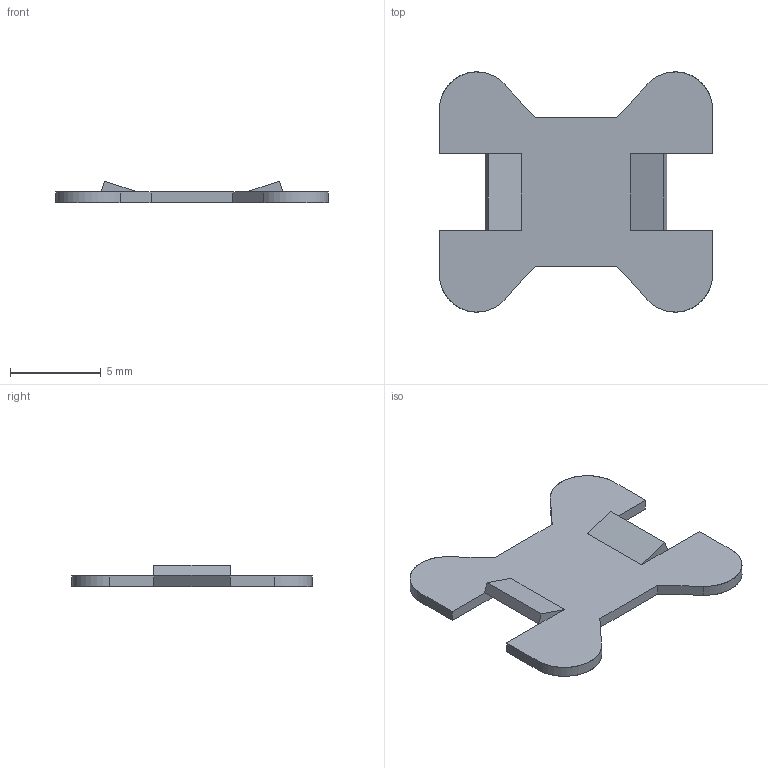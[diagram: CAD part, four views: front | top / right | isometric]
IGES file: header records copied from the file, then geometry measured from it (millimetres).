
Start section: SolidWorks IGES FILE using analytic representation for surfaces
Global section: file name: C:\Documents and Settings\lecoutey\Bureau\GR 62\62.081.10.IGS; native system: SolidWorks 2004 by SolidWorks Corporation; preprocessor: Version 5.3; author: lecoutey; date: 050330.160941; units: millimetre
Bounding box: 15 x 13.2 x 1.2 mm (x, y, z)
Surface area: 322.9 mm2 (no closed solid volume)
Topology: 0 solids, 0 shells, 32 faces, 228 edges, 228 vertices
Faces by surface type: bspline 26, revolution 6
